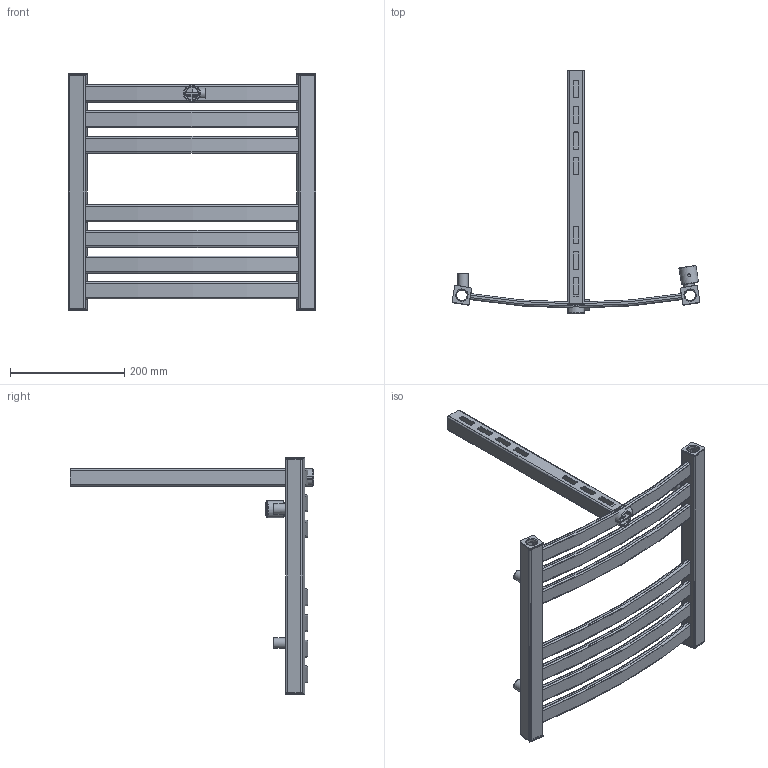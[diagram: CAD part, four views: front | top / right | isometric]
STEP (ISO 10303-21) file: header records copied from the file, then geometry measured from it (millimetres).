
FILE_DESCRIPTION( ( 'Unknown' ), '1' );
FILE_NAME( 'D:/Alplast sp. j/Witryna zespoBu - Projekty/Archiwum/Grzejniki Archiwum/Projekty/STANDARD/AK-EL/AK1-400EL.stp', 'Unknown', ( 'Unknown' ), ( 'Unknown' ), 'PSStep 10.1', 'Unknown', ' ' );
FILE_SCHEMA( ( 'AUTOMOTIVE_DESIGN { 1 0 10303 214 1 1 1 1 }' ) );
Length unit declared in the file: millimetre
Products named in the file (21): uchwyt plastikowy; Assem1; MOCOWANIE L40-01; MOCOWANIE FASOLKA; kana³  poziomy lukowy L-400; kana³  poziomy lukowy L-400-oa0; kana³  poziomy lukowy L-400-oa1; kana³  poziomy lukowy L-400-oa2; kana³  poziomy lukowy L-400-oa3; kana³  poziomy lukowy L-400-oa4; kana³  poziomy lukowy L-400-oa5; AK1-EPEL; AK1-EPEL-oa6; zaslepka kwadrat otwor; zaslepka kwadrat otwor-oa7; zaslepka kwadrat otwor-oa8; zaslepka kwadrat otwor-oa9; tulejka kat 12stopni; tulejka kat 12stopni-oa10; tulejka kat 12stopni-oa11; tulejka kat 12stopni-oa12
Bounding box: 433.76 x 426 x 415 mm (x, y, z)
Volume: 880739.5 mm3; surface area: 1157728.4 mm2
Topology: 40 solids, 40 shells, 826 faces, 2219 edges, 1486 vertices
Faces by surface type: plane 369, cylinder 317, torus 128, cone 12
Full cylindrical faces by diameter (mm): 4.917 x3, 16 x8, 18 x8, 18.631 x8, 22 x3, 22.7 x3, 23 x11, 30 x3
Entity records: 16468 total; most frequent: DIRECTION 2394, CARTESIAN_POINT 2299, ORIENTED_EDGE 2084, EDGE_CURVE 1042, AXIS2_PLACEMENT_3D 929, VERTEX_POINT 718, LINE 536, VECTOR 536
